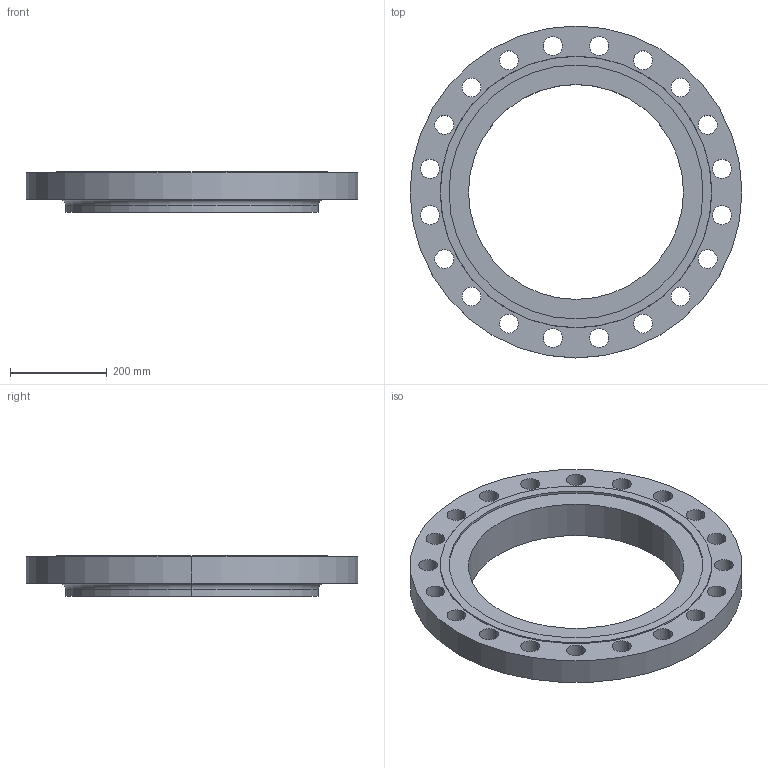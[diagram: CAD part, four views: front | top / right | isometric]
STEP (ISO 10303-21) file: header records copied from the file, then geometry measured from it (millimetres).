
FILE_DESCRIPTION (( 'STEP AP214' ), '1' );
FILE_NAME ('PN40 DN450 Type 13 - Type F Face.STEP', '2018-12-29T02:29:20', ( '' ), ( '' ), 'SwSTEP 2.0', 'SolidWorks 2019', '' );
FILE_SCHEMA (( 'AUTOMOTIVE_DESIGN' ));
Length unit declared in the file: millimetre
Products named in the file (1): PN40 DN450 Type 13 - Type F Face
Bounding box: 685 x 685 x 84 mm (x, y, z)
Volume: 11995074 mm3; surface area: 790589 mm2
Topology: 1 solids, 1 shells, 57 faces, 154 edges, 102 vertices
Faces by surface type: cylinder 48, plane 5, torus 2, cone 2
Entity records: 1974 total; most frequent: DIRECTION 374, CARTESIAN_POINT 314, ORIENTED_EDGE 308, AXIS2_PLACEMENT_3D 162, EDGE_CURVE 154, CIRCLE 104, VERTEX_POINT 102, EDGE_LOOP 102
